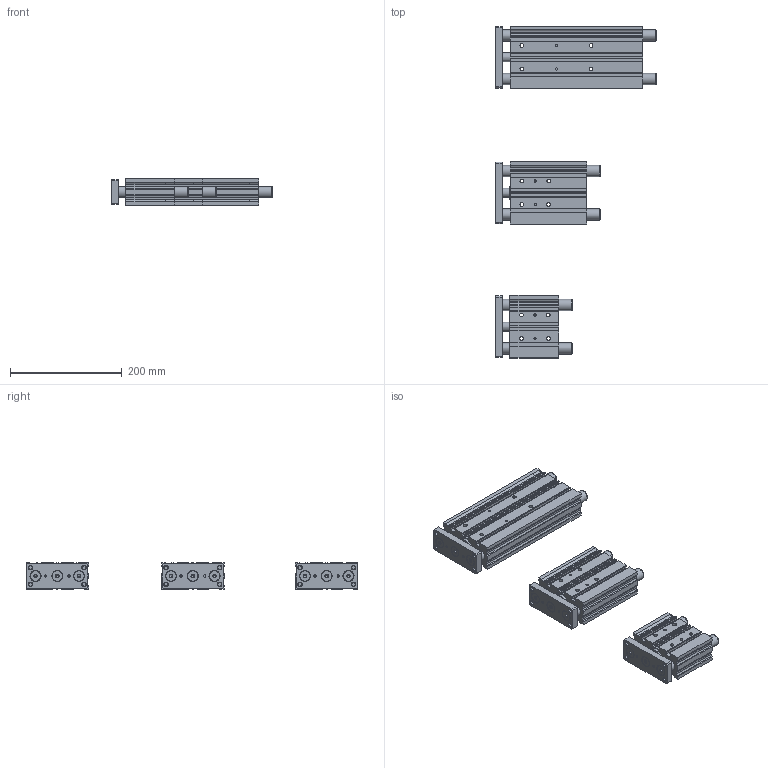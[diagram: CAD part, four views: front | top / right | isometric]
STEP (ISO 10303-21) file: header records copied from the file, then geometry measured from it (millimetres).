
FILE_DESCRIPTION(/* description */ (''),/* implementation_level */ '2;1');
FILE_NAME(/* name */ 'C:\Users\admin\Desktop\inventor\cilindri compatti guidati con boccole\step\Cilindri compatti guidati con boccole.stp',/* time_stamp */ '2021-08-26T10:17:43+02:00',/* author */ ('admin'),/* organization */ (''),/* preprocessor_version */ 'ST-DEVELOPER v18.1',/* originating_system */ 'Autodesk Inventor 2022',/* authorisation */ '');
FILE_SCHEMA (('AUTOMOTIVE_DESIGN { 1 0 10303 214 3 1 1 }'));
Length unit declared in the file: millimetre
Products named in the file (17): Cilindri compatti guidati con boccole; W143032A050/0----; 32A500-b; 32A500-rh; 32A500-g; 32A500-fh; W143032A100/0----; 32A1000-b; 32A1000-rh; 32A1000-g; 32A1000-fh; W143032A200/0----; 32A2000-b; 32A250-r; 32A2000-rh; 32A2000-g; 32A2000-fh
Assembly tree (21 placements, depth 3):
  Cilindri compatti guidati con boccole
    W143032A050/0----
      32A500-b
      32A250-r  x2
      32A500-rh
      32A500-g
      32A500-fh
    W143032A100/0----
      32A1000-b
      32A250-r  x2
      32A1000-rh
      32A1000-g
      32A1000-fh
    W143032A200/0----
      32A2000-b
      32A250-r  x2
      32A2000-rh
      32A2000-g
      32A2000-fh
Bounding box: 288 x 594.63 x 48 mm (x, y, z)
Volume: 2198734.6 mm3; surface area: 514916 mm2
Topology: 18 solids, 18 shells, 900 faces, 2145 edges, 1383 vertices
Faces by surface type: plane 579, cylinder 246, cone 60, torus 15
Full cylindrical faces by diameter (mm): 2.5 x12, 4 x18, 5 x9, 6.647 x36, 6.8 x12, 8.566 x12, 10.2 x12, 16 x3, 17.7 x3, 19 x9, 20 x21, 23 x3, 32 x3, 34 x12
Entity records: 24505 total; most frequent: DIRECTION 4211, CARTESIAN_POINT 4196, ORIENTED_EDGE 3912, EDGE_CURVE 1956, AXIS2_PLACEMENT_3D 1440, LINE 1331, VECTOR 1331, VERTEX_POINT 1263
